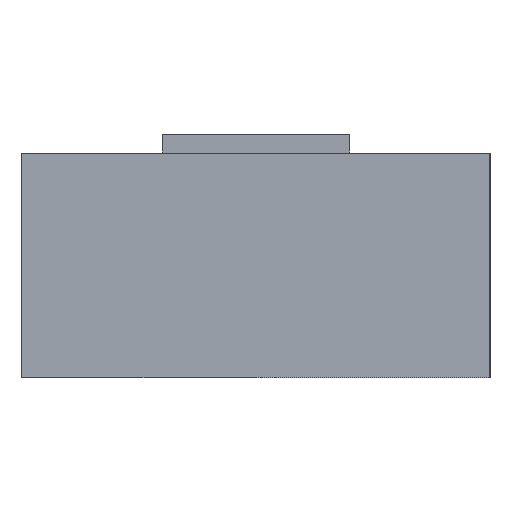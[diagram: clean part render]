
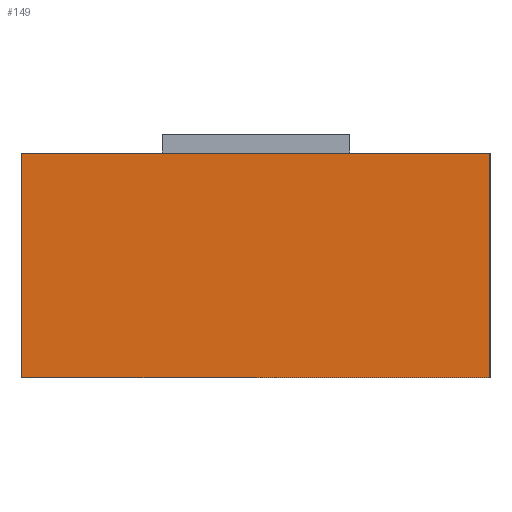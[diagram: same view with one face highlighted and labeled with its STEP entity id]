
A CAD part, left-side view. The second image highlights one B-rep face of the part: STEP entity #149.
In plain terms, the highlighted planar face has unit normal (-1, 0, 0).
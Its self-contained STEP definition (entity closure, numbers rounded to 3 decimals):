
#149=ADVANCED_FACE('',(#238),#240,.T.);
#238=FACE_BOUND('',#239,.T.);
#239=EDGE_LOOP('',(#471,#472,#473,#474));
#240=PLANE('',#241);
#241=AXIS2_PLACEMENT_3D('',#242,#243,#244);
#242=CARTESIAN_POINT('',(-2.5,1.25,0.));
#243=DIRECTION('',(-1.,0.,0.));
#244=DIRECTION('',(0.,-1.,0.));
#471=ORIENTED_EDGE('',*,*,#635,.T.);
#472=ORIENTED_EDGE('',*,*,#642,.F.);
#473=ORIENTED_EDGE('',*,*,#643,.T.);
#474=ORIENTED_EDGE('',*,*,#640,.T.);
#635=EDGE_CURVE('',#770,#777,#779,.T.);
#640=EDGE_CURVE('',#785,#770,#787,.T.);
#642=EDGE_CURVE('',#788,#777,#790,.T.);
#643=EDGE_CURVE('',#788,#785,#791,.T.);
#770=VERTEX_POINT('',#895);
#777=VERTEX_POINT('',#910);
#779=LINE('',#914,#915);
#785=VERTEX_POINT('',#928);
#787=LINE('',#932,#933);
#788=VERTEX_POINT('',#935);
#790=LINE('',#939,#940);
#791=LINE('',#942,#943);
#895=CARTESIAN_POINT('',(-2.5,-1.25,1.2));
#910=CARTESIAN_POINT('',(-2.5,1.25,1.2));
#914=CARTESIAN_POINT('',(-2.5,-1.25,1.2));
#915=VECTOR('',#916,1.);
#916=DIRECTION('',(0.,1.,0.));
#928=CARTESIAN_POINT('',(-2.5,-1.25,0.));
#932=CARTESIAN_POINT('',(-2.5,-1.25,0.));
#933=VECTOR('',#934,1.);
#934=DIRECTION('',(0.,0.,1.));
#935=CARTESIAN_POINT('',(-2.5,1.25,0.));
#939=CARTESIAN_POINT('',(-2.5,1.25,0.));
#940=VECTOR('',#941,1.);
#941=DIRECTION('',(0.,0.,1.));
#942=CARTESIAN_POINT('',(-2.5,1.25,0.));
#943=VECTOR('',#944,1.);
#944=DIRECTION('',(0.,-1.,0.));
